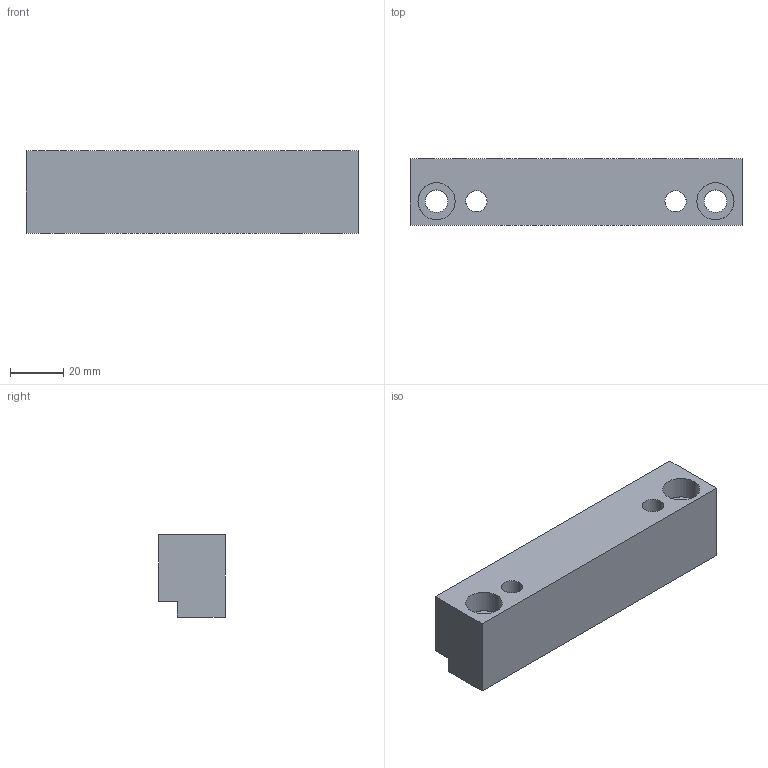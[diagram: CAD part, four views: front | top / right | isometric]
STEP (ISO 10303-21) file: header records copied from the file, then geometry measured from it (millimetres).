
FILE_DESCRIPTION(('CATIA V5 STEP Exchange'),'2;1');
FILE_NAME('C:\Users\Utente\Desktop\3D files G406\G40631125.stp','2020-04-22T11:25:41+00:00',('none'),('none'),'CATIA Version 5 Release 20 GA (IN-10)','CATIA V5 STEP AP203','none');
FILE_SCHEMA(('CONFIG_CONTROL_DESIGN'));
Length unit declared in the file: millimetre
Products named in the file (1): G40631125
Bounding box: 125 x 25 x 31 mm (x, y, z)
Surface area: 21833.9 mm2 (no closed solid volume)
Topology: 0 solids, 372 shells, 372 faces, 1570 edges, 1392 vertices
Faces by surface type: revolution 196, cylinder 128, plane 48
Entity records: 17600 total; most frequent: CARTESIAN_POINT 5987, DIRECTION 1834, ORIENTED_EDGE 1392, EDGE_CURVE 1392, VERTEX_POINT 1392, AXIS2_PLACEMENT_3D 779, VECTOR 684, LINE 684
